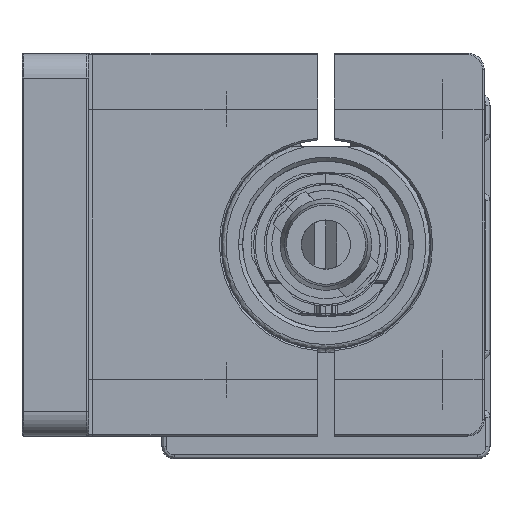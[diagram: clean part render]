
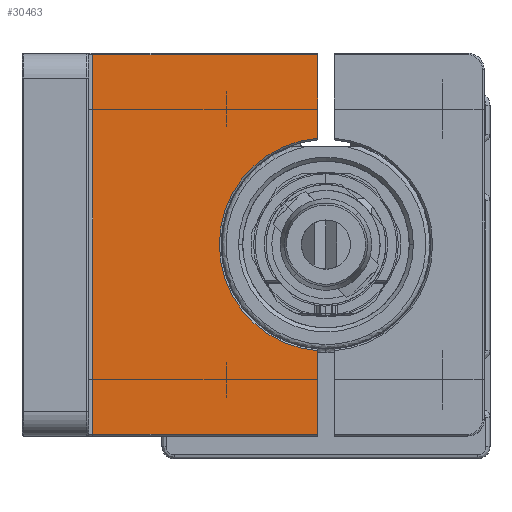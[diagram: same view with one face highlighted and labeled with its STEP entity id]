
A CAD part, front view. The second image highlights one B-rep face of the part: STEP entity #30463.
In plain terms, the highlighted planar face has unit normal (0, -1, 0) as drawn and (0, 0, 1) by its records, which use the part's own axes.
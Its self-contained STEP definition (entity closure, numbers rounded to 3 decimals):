
#3895 = CARTESIAN_POINT ( 'NONE',  ( 0.2, 7., 8. ) ) ;
#4131 = VERTEX_POINT ( 'NONE', #21576 ) ;
#4676 = VERTEX_POINT ( 'NONE', #29553 ) ;
#5319 = CARTESIAN_POINT ( 'NONE',  ( 10.239, 34., 8. ) ) ;
#6359 = LINE ( 'NONE', #23338, #9323 ) ;
#6549 = DIRECTION ( 'NONE',  ( 0., 1., 0. ) ) ;
#6918 = ORIENTED_EDGE ( 'NONE', *, *, #30067, .F. ) ;
#8397 = LINE ( 'NONE', #16467, #12355 ) ;
#8816 = DIRECTION ( 'NONE',  ( 1., 0., 0. ) ) ;
#9323 = VECTOR ( 'NONE', #19150, 1000. ) ;
#9584 = DIRECTION ( 'NONE',  ( 1., 0., 0. ) ) ;
#10110 = CARTESIAN_POINT ( 'NONE',  ( 45.8, 34., 8. ) ) ;
#10315 = EDGE_CURVE ( 'NONE', #14641, #29316, #12973, .T. ) ;
#11440 = EDGE_CURVE ( 'NONE', #46853, #4131, #46930, .T. ) ;
#12355 = VECTOR ( 'NONE', #55076, 1000. ) ;
#12973 = CIRCLE ( 'NONE', #20976, 12.8 ) ;
#13027 = FACE_OUTER_BOUND ( 'NONE', #46623, .T. ) ;
#14641 = VERTEX_POINT ( 'NONE', #27149 ) ;
#16467 = CARTESIAN_POINT ( 'NONE',  ( 0.2, 7., 8. ) ) ;
#16709 = ORIENTED_EDGE ( 'NONE', *, *, #29250, .T. ) ;
#19150 = DIRECTION ( 'NONE',  ( 1., 0., 0. ) ) ;
#20976 = AXIS2_PLACEMENT_3D ( 'NONE', #25196, #54861, #50682 ) ;
#20993 = ORIENTED_EDGE ( 'NONE', *, *, #10315, .T. ) ;
#21576 = CARTESIAN_POINT ( 'NONE',  ( 45.8, 7., 8. ) ) ;
#23338 = CARTESIAN_POINT ( 'NONE',  ( 45.8, 34., 8. ) ) ;
#25186 = VECTOR ( 'NONE', #46650, 1000. ) ;
#25196 = CARTESIAN_POINT ( 'NONE',  ( 23., 35., 8. ) ) ;
#27149 = CARTESIAN_POINT ( 'NONE',  ( 35.761, 34., 8. ) ) ;
#29250 = EDGE_CURVE ( 'NONE', #4131, #51805, #37242, .T. ) ;
#29316 = VERTEX_POINT ( 'NONE', #5319 ) ;
#29553 = CARTESIAN_POINT ( 'NONE',  ( 0.2, 34., 8. ) ) ;
#30067 = EDGE_CURVE ( 'NONE', #4676, #29316, #30514, .T. ) ;
#30413 = CARTESIAN_POINT ( 'NONE',  ( 0., 7., 8. ) ) ;
#30463 = ADVANCED_FACE ( 'NONE', ( #13027 ), #42657, .T. ) ;
#30514 = LINE ( 'NONE', #10110, #53761 ) ;
#31048 = EDGE_CURVE ( 'NONE', #4676, #46853, #8397, .T. ) ;
#31970 = CARTESIAN_POINT ( 'NONE',  ( 45.8, 34., 8. ) ) ;
#33708 = ORIENTED_EDGE ( 'NONE', *, *, #43144, .F. ) ;
#34575 = CARTESIAN_POINT ( 'NONE',  ( 0., 0., 8. ) ) ;
#37242 = LINE ( 'NONE', #31970, #40271 ) ;
#38427 = DIRECTION ( 'NONE',  ( 0., 0., 1. ) ) ;
#38639 = AXIS2_PLACEMENT_3D ( 'NONE', #34575, #38427, #8816 ) ;
#40271 = VECTOR ( 'NONE', #6549, 1000. ) ;
#42657 = PLANE ( 'NONE',  #38639 ) ;
#43144 = EDGE_CURVE ( 'NONE', #14641, #51805, #6359, .T. ) ;
#43159 = ORIENTED_EDGE ( 'NONE', *, *, #31048, .T. ) ;
#46623 = EDGE_LOOP ( 'NONE', ( #6918, #43159, #49222, #16709, #33708, #20993 ) ) ;
#46650 = DIRECTION ( 'NONE',  ( 1., 0., 0. ) ) ;
#46853 = VERTEX_POINT ( 'NONE', #3895 ) ;
#46930 = LINE ( 'NONE', #30413, #25186 ) ;
#49222 = ORIENTED_EDGE ( 'NONE', *, *, #11440, .T. ) ;
#49306 = CARTESIAN_POINT ( 'NONE',  ( 45.8, 34., 8. ) ) ;
#50682 = DIRECTION ( 'NONE',  ( 1., 0., 0. ) ) ;
#51805 = VERTEX_POINT ( 'NONE', #49306 ) ;
#53761 = VECTOR ( 'NONE', #9584, 1000. ) ;
#54861 = DIRECTION ( 'NONE',  ( 0., 0., -1. ) ) ;
#55076 = DIRECTION ( 'NONE',  ( 0., -1., 0. ) ) ;
